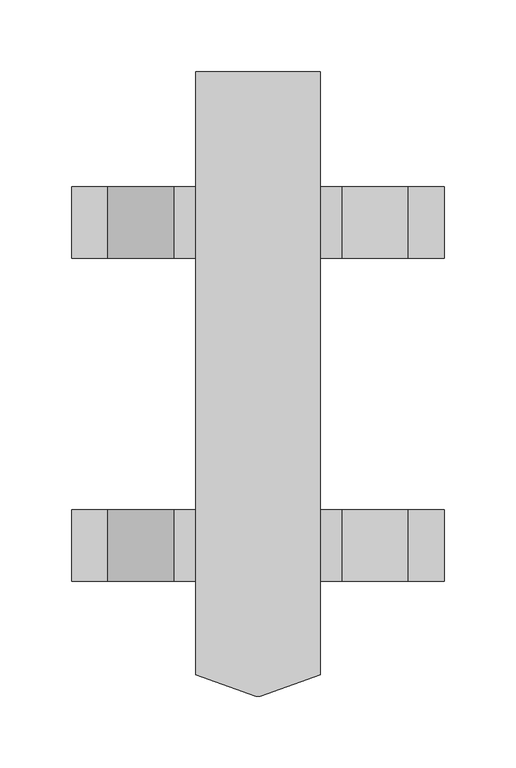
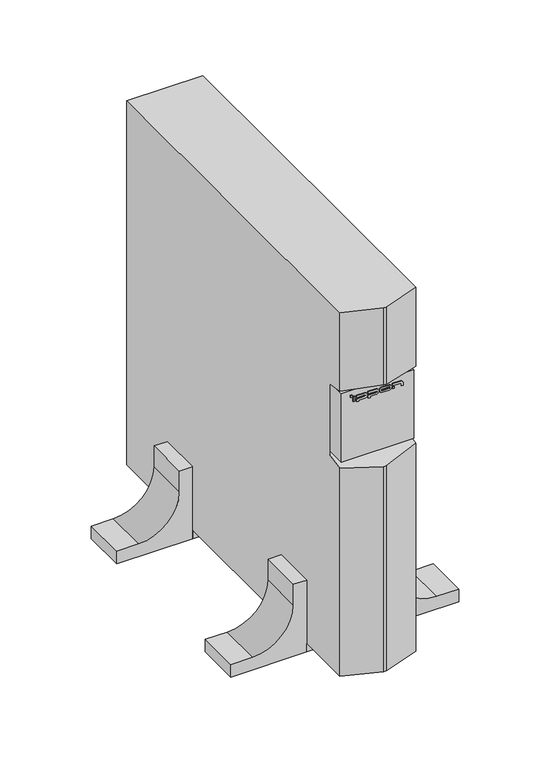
"""IFC4 building model written with IfcOpenShell, lengths in millimetres: proxy geometry, IPPON_ИБП_Innova RT_1000_1500_2000_3000ВА : INNOVA RT 1000 ВА."""

from ifc_helpers import new_model, si_unit, point, frame, frame_2d, origin, origin_with_axes, place, context, project, spatial, polyline, circle_curve, trimmed, segment, composite_curve, outline, extrude, faceted_brep, source, transform, mapped, element, save


def electrical_equipment_284e5c05(model_context):
    return source(origin(), model_context, "Body", "SolidModel", [
        extrude(outline(polyline([(-29.1718133, 14.0), (-31.1718133, 14.0), (-31.1718133, 15.0), (-29.1718133, 15.0), (-29.1718133, 14.0)])), frame((0.0, 0.0, 341.7195835), z_axis=(0.0, 0.0, 1.0), x_axis=(1.0, 0.0, 0.0)), (0.0, 0.0, 1.0), 2.3),
        extrude(outline(polyline([(18.6035474, 14.0), (16.6035474, 14.0), (16.6035474, 15.0), (18.6035474, 15.0), (18.6035474, 14.0)])), frame((0.0, 0.0, 335.7195835), z_axis=(0.0, 0.0, 1.0), x_axis=(1.0, 0.0, 0.0)), (0.0, 0.0, 1.0), 2.2268231),
        extrude(outline(polyline([(-26.438565, 14.0), (-28.4833324, 14.0), (-28.4833324, 15.0), (-26.438565, 15.0), (-26.438565, 14.0)])), frame((0.0, 0.0, 335.7195835), z_axis=(0.0, 0.0, 1.0), x_axis=(1.0, 0.0, 0.0)), (0.0, 0.0, 1.0), 6.0),
        extrude(outline(composite_curve([segment(polyline([(339.4571435, -24.2241109), (339.4571435, -14.9923536)]), True, "CONTINUOUS"), segment(trimmed(circle_curve(frame_2d((338.6006642, -14.9923536)), 0.8564793), [point((339.4571435, -14.9923536))], [point((337.7441849, -14.9923536))], True, "CARTESIAN"), True, "CONTINUOUS"), segment(polyline([(337.7441849, -14.9923536), (337.7441849, -24.2241109), (334.2536803, -24.2241109), (334.2536803, -22.2241109), (335.7195835, -22.2241109), (335.7195835, -15.1486036)]), True, "CONTINUOUS"), segment(trimmed(circle_curve(frame_2d((338.7195835, -15.1486036)), 3.0), [point((335.7195835, -15.1486036))], [point((341.7195835, -15.1486036))], False, "CARTESIAN"), True, "CONTINUOUS"), segment(polyline([(341.7195835, -15.1486036), (341.7195835, -24.2241109), (339.4571435, -24.2241109)]), True, "CONTINUOUS")], self_intersect=False)), frame((0.0, 14.0, 0.0), z_axis=(0.0, 1.0, 0.0), x_axis=(0.0, 0.0, 1.0)), (0.0, 0.0, 1.0), 1.0),
        extrude(outline(composite_curve([segment(polyline([(339.4571435, -11.0171091), (339.4571435, -1.7853518)]), True, "CONTINUOUS"), segment(trimmed(circle_curve(frame_2d((338.6006642, -1.7853518)), 0.8564793), [point((339.4571435, -1.7853518))], [point((337.7441849, -1.7853518))], True, "CARTESIAN"), True, "CONTINUOUS"), segment(polyline([(337.7441849, -1.7853518), (337.7441849, -11.0171091), (334.2536803, -11.0171091), (334.2536803, -9.0171091), (335.7195835, -9.0171091), (335.7195835, -1.9416018)]), True, "CONTINUOUS"), segment(trimmed(circle_curve(frame_2d((338.7195835, -1.9416018)), 3.0), [point((335.7195835, -1.9416018))], [point((341.7195835, -1.9416018))], False, "CARTESIAN"), True, "CONTINUOUS"), segment(polyline([(341.7195835, -1.9416018), (341.7195835, -11.0171091), (339.4571435, -11.0171091)]), True, "CONTINUOUS")], self_intersect=False)), frame((0.0, 14.0, 0.0), z_axis=(0.0, 1.0, 0.0), x_axis=(0.0, 0.0, 1.0)), (0.0, 0.0, 1.0), 1.0),
        extrude(outline(composite_curve([segment(trimmed(circle_curve(frame_2d((338.7195835, 12.558657)), 3.0), [point((335.7195835, 12.558657))], [point((341.7195835, 12.558657))], False, "CARTESIAN"), True, "CONTINUOUS"), segment(polyline([(341.7195835, 12.558657), (341.7195835, 4.958657)]), True, "CONTINUOUS"), segment(trimmed(circle_curve(frame_2d((338.7195835, 4.958657)), 3.0), [point((341.7195835, 4.958657))], [point((335.7195835, 4.958657))], False, "CARTESIAN"), True, "CONTINUOUS"), segment(polyline([(335.7195835, 4.958657), (335.7195835, 12.558657)]), True, "CONTINUOUS")], self_intersect=False), holes=[composite_curve([segment(polyline([(337.7441849, 12.714907), (337.7441849, 4.802407)]), True, "CONTINUOUS"), segment(trimmed(circle_curve(frame_2d((338.6006642, 4.802407)), 0.8564793), [point((337.7441849, 4.802407))], [point((339.4571435, 4.802407))], True, "CARTESIAN"), True, "CONTINUOUS"), segment(polyline([(339.4571435, 4.802407), (339.4571435, 12.714907)]), True, "CONTINUOUS"), segment(trimmed(circle_curve(frame_2d((338.6006642, 12.714907)), 0.8564793), [point((339.4571435, 12.714907))], [point((337.7441849, 12.714907))], True, "CARTESIAN"), True, "CONTINUOUS")], self_intersect=False)]), frame((0.0, 14.0, 0.0), z_axis=(0.0, 1.0, 0.0), x_axis=(0.0, 0.0, 1.0)), (0.0, 0.0, 1.0), 1.0),
        extrude(outline(composite_curve([segment(polyline([(339.4571435, 16.6035474), (339.4571435, 25.8353046)]), True, "CONTINUOUS"), segment(trimmed(circle_curve(frame_2d((338.6006642, 25.8353046)), 0.8564793), [point((339.4571435, 25.8353046))], [point((338.6006642, 26.6917839))], True, "CARTESIAN"), True, "CONTINUOUS"), segment(polyline([(338.6006642, 26.6917839), (335.7195835, 26.6917839), (335.7195835, 28.6317921), (339.25, 28.6317921)]), True, "CONTINUOUS"), segment(trimmed(circle_curve(frame_2d((338.7195835, 25.6790546)), 3.0), [point((339.25, 28.6317921))], [point((341.7195835, 25.6790546))], False, "CARTESIAN"), True, "CONTINUOUS"), segment(polyline([(341.7195835, 25.6790546), (341.7195835, 16.6035474), (339.4571435, 16.6035474)]), True, "CONTINUOUS")], self_intersect=False)), frame((0.0, 14.0, 0.0), z_axis=(0.0, 1.0, 0.0), x_axis=(0.0, 0.0, 1.0)), (0.0, 0.0, 1.0), 1.0),
        extrude(outline(polyline([(-43.25, 355.0), (43.25, 355.0), (43.25, 305.0), (-43.25, 305.0), (-43.25, 355.0)])), origin_with_axes(), (0.0, 0.0, 1.0), 10.0),
        extrude(outline(polyline([(43.25, 80.0), (-43.25, 80.0), (-43.25, 130.0), (43.25, 130.0), (43.25, 80.0)])), origin_with_axes(), (0.0, 0.0, 1.0), 10.0),
        extrude(outline(composite_curve([segment(polyline([(0.0, -43.25), (86.5, -43.25), (86.5, -58.25), (61.5, -58.25)]), True, "CONTINUOUS"), segment(trimmed(circle_curve(frame_2d((61.5, -104.75)), 46.5), [point((61.5, -58.25))], [point((15.0, -104.75))], True, "CARTESIAN"), True, "CONTINUOUS"), segment(polyline([(15.0, -104.75), (15.0, -129.75), (0.0, -129.75), (0.0, -43.25)]), True, "CONTINUOUS")], self_intersect=False)), frame((0.0, 305.0, 0.0), z_axis=(0.0, 1.0, 0.0), x_axis=(0.0, 0.0, 1.0)), (0.0, 0.0, 1.0), 50.0),
        extrude(outline(composite_curve([segment(polyline([(0.0, -43.25), (86.5, -43.25), (86.5, -58.25), (61.5, -58.25)]), True, "CONTINUOUS"), segment(trimmed(circle_curve(frame_2d((61.5, -104.75)), 46.5), [point((61.5, -58.25))], [point((15.0, -104.75))], True, "CARTESIAN"), True, "CONTINUOUS"), segment(polyline([(15.0, -104.75), (15.0, -129.75), (0.0, -129.75), (0.0, -43.25)]), True, "CONTINUOUS")], self_intersect=False)), frame((0.0, 80.0, 0.0), z_axis=(0.0, 1.0, 0.0), x_axis=(0.0, 0.0, 1.0)), (0.0, 0.0, 1.0), 50.0),
        extrude(outline(composite_curve([segment(polyline([(0.0, 129.75), (15.0, 129.75), (15.0, 104.75)]), True, "CONTINUOUS"), segment(trimmed(circle_curve(frame_2d((61.5, 104.75)), 46.5), [point((15.0, 104.75))], [point((61.5, 58.25))], True, "CARTESIAN"), True, "CONTINUOUS"), segment(polyline([(61.5, 58.25), (86.5, 58.25), (86.5, 43.25), (0.0, 43.25), (0.0, 129.75)]), True, "CONTINUOUS")], self_intersect=False)), frame((0.0, 305.0, 0.0), z_axis=(0.0, 1.0, 0.0), x_axis=(0.0, 0.0, 1.0)), (0.0, 0.0, 1.0), 50.0),
        extrude(outline(composite_curve([segment(polyline([(0.0, 43.25), (0.0, 129.75), (15.0, 129.75), (15.0, 104.75)]), True, "CONTINUOUS"), segment(trimmed(circle_curve(frame_2d((61.5, 104.75)), 46.5), [point((15.0, 104.75))], [point((61.5, 58.25))], True, "CARTESIAN"), True, "CONTINUOUS"), segment(polyline([(61.5, 58.25), (86.5, 58.25), (86.5, 43.25), (0.0, 43.25)]), True, "CONTINUOUS")], self_intersect=False)), frame((0.0, 80.0, 0.0), z_axis=(0.0, 1.0, 0.0), x_axis=(0.0, 0.0, 1.0)), (0.0, 0.0, 1.0), 50.0),
        extrude(outline(polyline([(41.25, 15.0), (-41.25, 15.0), (-41.25, 43.0), (41.25, 43.0), (41.25, 15.0)])), frame((0.0, 0.0, 266.75), z_axis=(0.0, 0.0, 1.0), x_axis=(1.0, 0.0, 0.0)), (0.0, 0.0, 1.0), 82.5),
        faceted_brep([(1.5, 0.0, 448.0), (-1.5, 0.0, 448.0), (-1.5, 0.0, 355.25), (1.5, 0.0, 355.25), (-1.5, 0.0, 10.0), (1.5, 0.0, 10.0), (1.5, 0.0, 256.75), (-1.5, 0.0, 256.75), (43.25, 15.0, 10.0), (43.25, 15.0, 260.2383721), (43.25, 15.0, 448.0), (43.25, 15.0, 353.1569767), (43.25, 435.0, 448.0), (-43.25, 435.0, 448.0), (-43.25, 15.0, 448.0), (-43.25, 15.0, 353.1569767), (-43.25, 15.0, 10.0), (-43.25, 15.0, 260.2383721), (-43.25, 435.0, 10.0), (43.25, 435.0, 10.0), (41.25, 43.0, 349.25), (-41.25, 43.0, 349.25), (-41.25, 43.0, 266.75), (41.25, 43.0, 266.75), (43.25, 34.4, 264.75), (43.25, 34.4, 350.45), (-43.25, 34.4, 264.75), (-43.25, 34.4, 350.45)], [[[0, 1, 2, 3]], [[4, 5, 6, 7]], [[5, 8, 9, 6]], [[10, 0, 3, 11]], [[1, 0, 10, 12, 13, 14]], [[1, 14, 15, 2]], [[16, 4, 7, 17]], [[5, 4, 16, 18, 19, 8]], [[20, 21, 22, 23]], [[20, 23, 24, 25]], [[23, 22, 26, 17, 7, 6, 9, 24]], [[22, 21, 27, 26]], [[21, 20, 25, 11, 3, 2, 15, 27]], [[12, 19, 18, 13]], [[13, 18, 16, 17, 26, 27, 15, 14]], [[19, 12, 10, 11, 25, 24, 9, 8]]]),
    ])


if __name__ == "__main__":
    model = new_model("IFC4")
    model_context = context("Model", 3, world=origin())
    ifc_project = project(units=[si_unit("LENGTHUNIT", "METRE", prefix="MILLI")], contexts=[model_context])
    site = spatial("IfcSite", under=ifc_project)
    building = spatial("IfcBuilding", under=site)
    placement = place(None, origin())
    electrical_equipment_shape = electrical_equipment_284e5c05(model_context)
    element("IfcBuildingElementProxy", 1, Name="IPPON_ИБП_Innova RT_1000_1500_2000_3000ВА : INNOVA RT 1000 ВА", ObjectType="IPPON_ИБП_Innova RT_1000_1500_2000_3000ВА : INNOVA RT 1000 ВА", at=placement, inside=building, context=model_context, shape_type="MappedRepresentation", body=[
        mapped(electrical_equipment_shape, transform((0.0, 0.0, 0.0), x_axis=(1.0, 0.0, 0.0), y_axis=(0.0, 1.0, 0.0), z_axis=(0.0, 0.0, 1.0))),
    ])
    save(model, "model.ifc")
